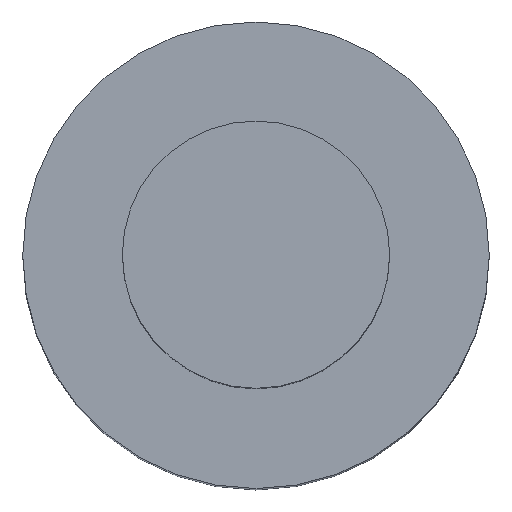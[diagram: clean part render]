
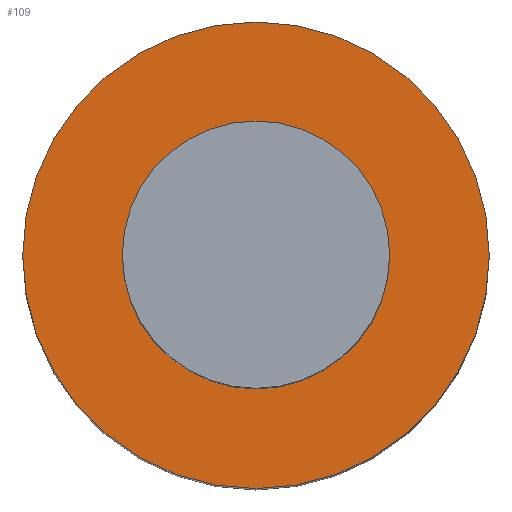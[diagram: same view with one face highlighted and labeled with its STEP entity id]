
A CAD part, top view. The second image highlights one B-rep face of the part: STEP entity #109.
In plain terms, the highlighted planar face has unit normal (0, 0, 1).
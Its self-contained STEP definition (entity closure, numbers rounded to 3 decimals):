
#24 = VERTEX_POINT('',#25);
#25 = CARTESIAN_POINT('',(19.99,0.,69.5));
#32 = CYLINDRICAL_SURFACE('',#33,19.99);
#33 = AXIS2_PLACEMENT_3D('',#34,#35,#36);
#34 = CARTESIAN_POINT('',(0.,0.,0.));
#35 = DIRECTION('',(-0.,-0.,-1.));
#36 = DIRECTION('',(1.,0.,0.));
#51 = EDGE_CURVE('',#24,#24,#52,.T.);
#52 = SURFACE_CURVE('',#53,(#58,#65),.PCURVE_S1.);
#53 = CIRCLE('',#54,19.99);
#54 = AXIS2_PLACEMENT_3D('',#55,#56,#57);
#55 = CARTESIAN_POINT('',(0.,0.,69.5));
#56 = DIRECTION('',(0.,0.,1.));
#57 = DIRECTION('',(1.,0.,0.));
#58 = PCURVE('',#32,#59);
#59 = DEFINITIONAL_REPRESENTATION('',(#60),#64);
#60 = LINE('',#61,#62);
#61 = CARTESIAN_POINT('',(-0.,-69.5));
#62 = VECTOR('',#63,1.);
#63 = DIRECTION('',(-1.,0.));
#64 = ( GEOMETRIC_REPRESENTATION_CONTEXT(2) 
PARAMETRIC_REPRESENTATION_CONTEXT() REPRESENTATION_CONTEXT('2D SPACE',''
  ) );
#65 = PCURVE('',#66,#71);
#66 = PLANE('',#67);
#67 = AXIS2_PLACEMENT_3D('',#68,#69,#70);
#68 = CARTESIAN_POINT('',(0.,0.,69.5));
#69 = DIRECTION('',(0.,0.,1.));
#70 = DIRECTION('',(1.,0.,-0.));
#71 = DEFINITIONAL_REPRESENTATION('',(#72),#76);
#72 = CIRCLE('',#73,19.99);
#73 = AXIS2_PLACEMENT_2D('',#74,#75);
#74 = CARTESIAN_POINT('',(0.,0.));
#75 = DIRECTION('',(1.,0.));
#76 = ( GEOMETRIC_REPRESENTATION_CONTEXT(2) 
PARAMETRIC_REPRESENTATION_CONTEXT() REPRESENTATION_CONTEXT('2D SPACE',''
  ) );
#109 = ADVANCED_FACE('',(#110,#113),#66,.T.);
#110 = FACE_BOUND('',#111,.T.);
#111 = EDGE_LOOP('',(#112));
#112 = ORIENTED_EDGE('',*,*,#51,.T.);
#113 = FACE_BOUND('',#114,.T.);
#114 = EDGE_LOOP('',(#115));
#115 = ORIENTED_EDGE('',*,*,#116,.F.);
#116 = EDGE_CURVE('',#117,#117,#119,.T.);
#117 = VERTEX_POINT('',#118);
#118 = CARTESIAN_POINT('',(11.45,0.,69.5));
#119 = SURFACE_CURVE('',#120,(#125,#132),.PCURVE_S1.);
#120 = CIRCLE('',#121,11.45);
#121 = AXIS2_PLACEMENT_3D('',#122,#123,#124);
#122 = CARTESIAN_POINT('',(0.,0.,69.5));
#123 = DIRECTION('',(0.,0.,1.));
#124 = DIRECTION('',(1.,0.,0.));
#125 = PCURVE('',#66,#126);
#126 = DEFINITIONAL_REPRESENTATION('',(#127),#131);
#127 = CIRCLE('',#128,11.45);
#128 = AXIS2_PLACEMENT_2D('',#129,#130);
#129 = CARTESIAN_POINT('',(0.,0.));
#130 = DIRECTION('',(1.,0.));
#131 = ( GEOMETRIC_REPRESENTATION_CONTEXT(2) 
PARAMETRIC_REPRESENTATION_CONTEXT() REPRESENTATION_CONTEXT('2D SPACE',''
  ) );
#132 = PCURVE('',#133,#138);
#133 = CYLINDRICAL_SURFACE('',#134,11.45);
#134 = AXIS2_PLACEMENT_3D('',#135,#136,#137);
#135 = CARTESIAN_POINT('',(0.,0.,69.5));
#136 = DIRECTION('',(-0.,-0.,-1.));
#137 = DIRECTION('',(1.,0.,0.));
#138 = DEFINITIONAL_REPRESENTATION('',(#139),#143);
#139 = LINE('',#140,#141);
#140 = CARTESIAN_POINT('',(-0.,0.));
#141 = VECTOR('',#142,1.);
#142 = DIRECTION('',(-1.,0.));
#143 = ( GEOMETRIC_REPRESENTATION_CONTEXT(2) 
PARAMETRIC_REPRESENTATION_CONTEXT() REPRESENTATION_CONTEXT('2D SPACE',''
  ) );
